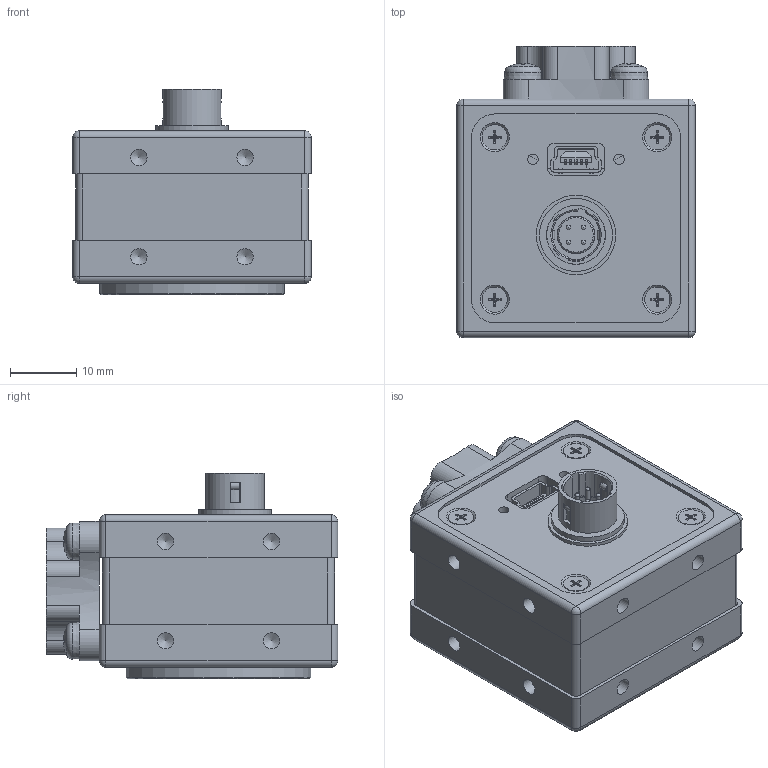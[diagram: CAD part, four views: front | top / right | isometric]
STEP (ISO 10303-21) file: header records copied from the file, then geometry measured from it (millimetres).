
FILE_DESCRIPTION(/* description */ ('Montagevorrichtung für xxxxxxx'),/* implementation_level */ '2;1');
FILE_NAME(/* name */ 'D:\HiDrive\1_Konstruktion\1_KUNDEN\TIS\154-13_MC36-Camera (Opto Precision)\154-13-8-00-00_MC36-AR CMOS_USB-Mini_4PHirose\KSM\154-13-80\KSM_154-13-80_(MC36_USB-Mini_4PHiro_CS-FP_13,3_ER-6,7).stp',/* time_stamp */ '2024-03-03T07:19:19+01:00',/* author */ ('khw'),/* organization */ ('TIS, Germany'),/* preprocessor_version */ 'ST-DEVELOPER v18.1',/* originating_system */ 'Autodesk Inventor 2021',/* authorisation */ '520025 mm^3');
FILE_SCHEMA (('AUTOMOTIVE_DESIGN { 1 0 10303 214 3 1 1 }'));
Length unit declared in the file: millimetre
Products named in the file (4): 154-13-80-00-00_MC36_USB-Mini_4PHiro_CS-FP_13,3_ER-6,7; 2_Redu_154-13-80-00-00_MC36_USB-Mini_4PHiro_CS-FP_13,3_ER-6,7; 154-13-1-00-03_Tripod Adapter; ISO 7045 - M3 x 6 - 4.8 - H
Assembly tree (6 placements, depth 2):
  154-13-80-00-00_MC36_USB-Mini_4PHiro_CS-FP_13,3_ER-6,7
    2_Redu_154-13-80-00-00_MC36_USB-Mini_4PHiro_CS-FP_13,3_ER-6,7
    154-13-1-00-03_Tripod Adapter
    ISO 7045 - M3 x 6 - 4.8 - H  x4
Bounding box: 36 x 44 x 31.05 mm (x, y, z)
Volume: 17604 mm3; surface area: 17363 mm2
Topology: 7 solids, 8 shells, 916 faces, 2414 edges, 1568 vertices
Faces by surface type: plane 451, cylinder 261, cone 142, torus 42, sphere 16, bspline 4
Full cylindrical faces by diameter (mm): 0.7 x4, 0.8 x6, 1 x1, 1.1 x4, 1.567 x6, 1.755 x4, 2 x4, 2.3 x4, 2.459 x16, 2.729 x4, 3 x4, 3.4 x4, 3.8 x4, 4 x4, 4.917 x1, 4.978 x1, 5 x2, 5.6 x1, 5.7 x1, 6.55 x1, 6.6 x1, 8 x1, 8.85 x1, 11 x1, 12 x1, 16.5 x1, 20.2 x1, 21.9 x1, 22 x2, 24.536 x1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
Entity records: 28731 total; most frequent: CARTESIAN_POINT 7010, DIRECTION 4397, ORIENTED_EDGE 4268, EDGE_CURVE 2134, AXIS2_PLACEMENT_3D 1576, VERTEX_POINT 1406, LINE 1245, VECTOR 1245
